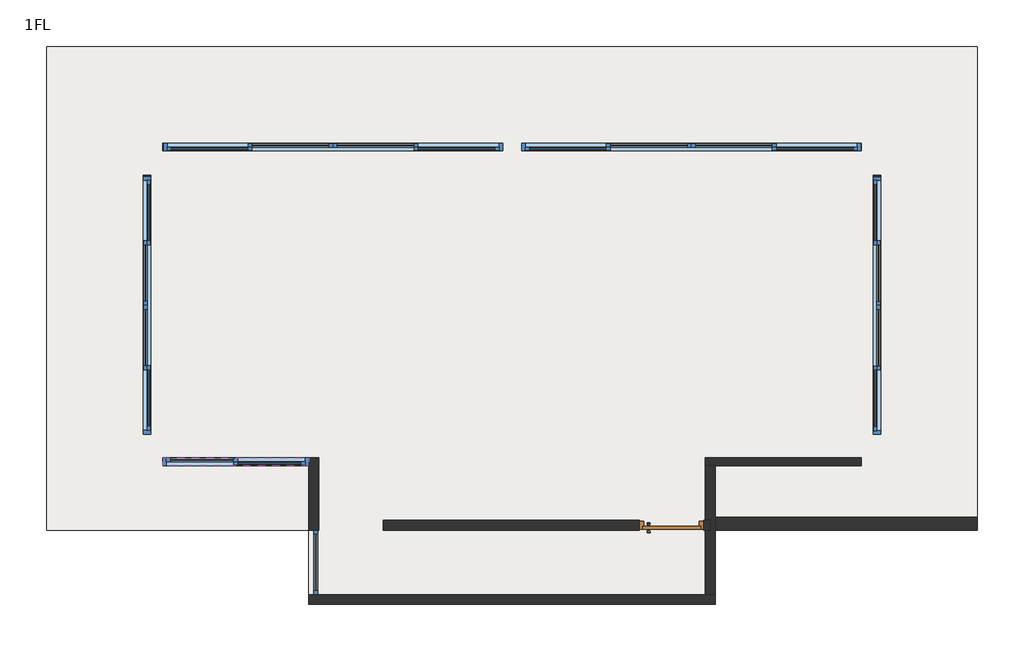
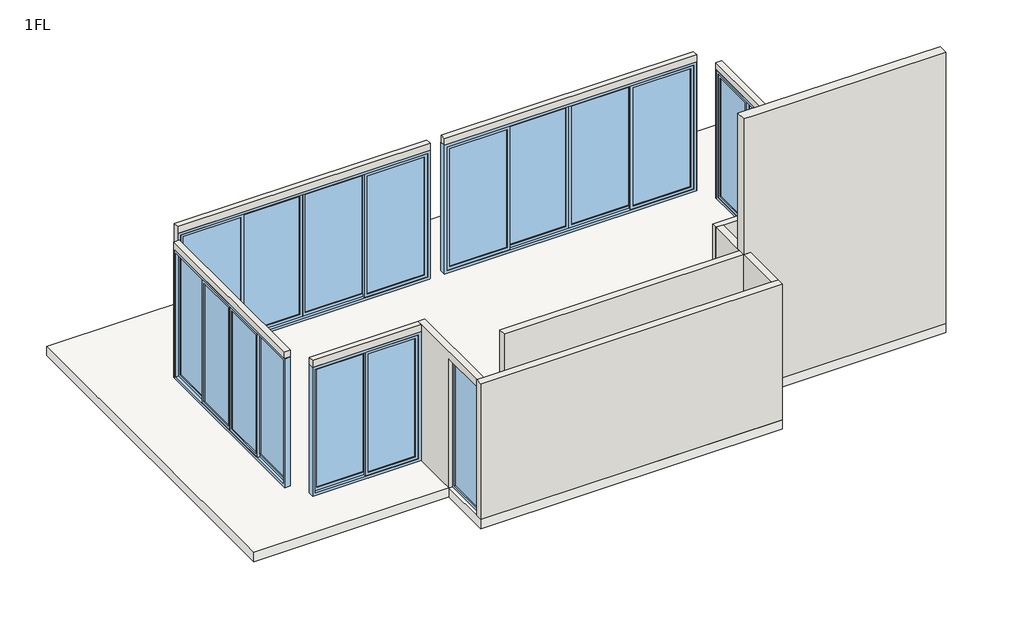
# One storey, incomplete: 11 walls, 6 windows, 1 door, 1 slab.
"""IFC4 building model written with IfcOpenShell, lengths in millimetres."""

from ifc_helpers import new_model, si_unit, frame, origin, place, context, project, spatial, polyline, outline, extrude, faceted_brep, transform, mapped, element, save
from components import door_100_x_210_cm_7fcb26db, window_85ef9ea3, window_18301d79, window_0d7f8c46, window_d6e7e360, window_17b7d049

model = new_model("IFC4")

# Units and contexts
model_context = context("Model", 3, world=origin())
ifc_project = project(units=[si_unit("LENGTHUNIT", "METRE", prefix="MILLI")], contexts=[model_context])

# Site, building, storey
site = spatial("IfcSite", under=ifc_project)
building = spatial("IfcBuilding", under=site)
storey = spatial("IfcBuildingStorey", under=building, Name="1FL", Elevation=850.0)

# Door
placement = place(None, origin())
door_100_x_210_cm_shape = door_100_x_210_cm_7fcb26db(model_context)
element("IfcDoor", 1, ObjectType="單開-矩形- (1) : 100 x 210 cm", at=placement, inside=storey, context=model_context, shape_type="MappedRepresentation", body=[
    mapped(door_100_x_210_cm_shape, transform((-162.6682319, -7197.8625998, 850.0), x_axis=(-1.0, 0.0, 0.0), y_axis=(0.0, -1.0, 0.0), z_axis=(0.0, 0.0, 1.0))),
])

# Slab
element("IfcSlab", 2, ObjectType="1FL_一般_20cm", at=placement, inside=storey, context=model_context, shape_type="SweptSolid", body=[
    extrude(outline(polyline([(4582.3317681, 437.1374002), (4582.3317681, -7062.8625998), (512.3317681, -7062.8625998), (512.3317681, -8212.8625998), (-5787.6682319, -8212.8625998), (-5787.6682319, -7062.8625998), (-9857.6682319, -7062.8625998), (-9857.6682319, 437.1374002), (4582.3317681, 437.1374002)])), frame((0.0, 0.0, 650.0), z_axis=(0.0, 0.0, 1.0), x_axis=(1.0, 0.0, 0.0)), (0.0, 0.0, 1.0), 200.0),
])

# Walls
element("IfcWall", 3, ObjectType="1FL_樓梯_北面_RC 牆_15cm", at=placement, inside=storey, context=model_context, shape_type="Brep", body=[
    faceted_brep([(512.3317681, -8062.8625998, 850.0), (362.3317681, -8062.8625998, 850.0), (-5787.6682319, -8062.8625998, 850.0), (-5787.6682319, -8062.8625998, 3700.0), (-5787.6682319, -8062.8625998, 3850.0), (-5637.6682319, -8062.8625998, 3850.0), (362.3317681, -8062.8625998, 3850.0), (512.3317681, -8062.8625998, 3850.0), (512.3317681, -8212.8625998, 850.0), (512.3317681, -8212.8625998, 3850.0), (-5787.6682319, -8212.8625998, 3850.0), (-5787.6682319, -8212.8625998, 850.0)], [[[0, 1, 2, 3, 4, 5, 6, 7]], [[8, 9, 10, 11]], [[2, 1, 0, 8, 11]], [[7, 6, 5, 4, 10, 9]], [[4, 3, 2, 11, 10]], [[0, 7, 9, 8]]]),
])
element("IfcWall", 4, ObjectType="1FL_樓梯_東面_RC 牆_15cm", at=placement, inside=storey, context=model_context, shape_type="Brep", body=[
    faceted_brep([(-5637.6682319, -5937.8625998, 850.0), (-5637.6682319, -5937.8625998, 3850.0), (-5637.6682319, -8062.8625998, 3850.0), (-5637.6682319, -8062.8625998, 3700.0), (-5637.6682319, -7062.8625998, 3700.0), (-5637.6682319, -7062.8625998, 850.0), (-5787.6682319, -8062.8625998, 3850.0), (-5787.6682319, -6062.8625998, 3850.0), (-5787.6682319, -5942.8625998, 3850.0), (-5787.6682319, -5937.8625998, 3850.0), (-5787.6682319, -5937.8625998, 850.0), (-5787.6682319, -7062.8625998, 850.0), (-5787.6682319, -7062.8625998, 3700.0), (-5787.6682319, -8062.8625998, 3700.0)], [[[0, 1, 2, 3, 4, 5]], [[6, 7, 8, 9, 10, 11, 12, 13]], [[10, 0, 5, 11]], [[1, 0, 10, 9]], [[2, 1, 9, 8, 7, 6]], [[2, 6, 13, 3]], [[12, 4, 3, 13]], [[4, 12, 11, 5]]]),
])
element("IfcWall", 5, ObjectType="1FL_樓梯_西面_RC 牆_15cm", at=placement, inside=storey, context=model_context, shape_type="SweptSolid", body=[
    extrude(outline(polyline([(362.3317681, -8062.8625998), (362.3317681, -6062.8625998), (512.3317681, -6062.8625998), (512.3317681, -8062.8625998), (362.3317681, -8062.8625998)])), frame((0.0, 0.0, 850.0), z_axis=(0.0, 0.0, 1.0), x_axis=(1.0, 0.0, 0.0)), (0.0, 0.0, 1.0), 3000.0),
])
element("IfcWall", 6, ObjectType="1FL_樓梯_南面_RC 牆_15cm", at=placement, inside=storey, context=model_context, shape_type="Brep", body=[
    faceted_brep([(437.3317681, -7062.8625998, 850.0), (437.3317681, -7062.8625998, 3850.0), (362.3317681, -7062.8625998, 3850.0), (-4637.6682319, -7062.8625998, 3850.0), (-4637.6682319, -7062.8625998, 850.0), (-662.6682319, -7062.8625998, 850.0), (-662.6682319, -7062.8625998, 2950.0), (337.3317681, -7062.8625998, 2950.0), (337.3317681, -7062.8625998, 850.0), (437.3317681, -6912.8625998, 3850.0), (437.3317681, -6912.8625998, 850.0), (337.3317681, -6912.8625998, 850.0), (337.3317681, -6912.8625998, 2950.0), (-662.6682319, -6912.8625998, 2950.0), (-662.6682319, -6912.8625998, 850.0), (-4637.6682319, -6912.8625998, 850.0), (-4637.6682319, -6912.8625998, 3850.0)], [[[0, 1, 2, 3, 4, 5, 6, 7, 8]], [[9, 10, 11, 12, 13, 14, 15, 16]], [[10, 0, 8, 11]], [[4, 15, 14, 5]], [[1, 0, 10, 9]], [[3, 2, 1, 9, 16]], [[4, 3, 16, 15]], [[13, 6, 5, 14]], [[6, 13, 12, 7]], [[7, 12, 11, 8]]]),
])
element("IfcWall", 7, ObjectType="整樓_牆面_北面_虎邊_RC 牆_20cm", at=placement, inside=storey, context=model_context, shape_type="Brep", body=[
    faceted_brep([(4582.3317681, -6862.8625998, 850.0), (437.3317681, -6862.8625998, 850.0), (437.3317681, -6862.8625998, 3850.0), (362.3317681, -6862.8625998, 3850.0), (362.3317681, -6862.8625998, 6850.0), (2962.3317681, -6862.8625998, 6850.0), (3082.3317681, -6862.8625998, 6850.0), (4582.3317681, -6862.8625998, 6850.0), (3082.3317681, -6862.8625998, 3850.0), (3082.3317681, -6862.8625998, 6700.0), (2962.3317681, -6862.8625998, 6700.0), (2962.3317681, -6862.8625998, 3850.0), (437.3317681, -7062.8625998, 850.0), (4582.3317681, -7062.8625998, 850.0), (4582.3317681, -7062.8625998, 6850.0), (512.3317681, -7062.8625998, 6850.0), (362.3317681, -7062.8625998, 6850.0), (362.3317681, -7062.8625998, 3850.0), (437.3317681, -7062.8625998, 3850.0), (437.3317681, -6912.8625998, 850.0), (437.3317681, -6912.8625998, 3850.0), (3082.3317681, -6912.8625998, 3850.0), (3082.3317681, -6912.8625998, 6700.0), (2962.3317681, -6912.8625998, 6700.0), (2962.3317681, -6912.8625998, 3850.0)], [[[0, 1, 2, 3, 4, 5, 6, 7], [8, 9, 10, 11]], [[12, 13, 14, 15, 16, 17, 18]], [[1, 0, 13, 12, 19]], [[7, 6, 5, 4, 16, 15, 14]], [[0, 7, 14, 13]], [[1, 19, 12, 18, 20, 2]], [[3, 2, 20, 18, 17]], [[4, 3, 17, 16]], [[21, 22, 9, 8]], [[23, 24, 11, 10]], [[22, 23, 10, 9]], [[22, 21, 24, 23]], [[24, 21, 8, 11]]]),
])
element("IfcWall", 8, ObjectType="落地窗輔助牆_12cm", at=placement, inside=storey, context=model_context, shape_type="SweptSolid", body=[
    extrude(outline(polyline([(-5787.6682319, -6062.8625998), (-8057.6682319, -6062.8625998), (-8057.6682319, -5942.8625998), (-5787.6682319, -5942.8625998), (-5787.6682319, -6062.8625998)])), frame((0.0, 0.0, 3700.0), z_axis=(0.0, 0.0, 1.0), x_axis=(1.0, 0.0, 0.0)), (0.0, 0.0, 1.0), 150.0),
])
element("IfcWall", 9, ObjectType="落地窗輔助牆_12cm", at=placement, inside=storey, context=model_context, shape_type="SweptSolid", body=[
    extrude(outline(polyline([(-5562.8625998, 3850.0), (-1562.8625998, 3850.0), (-1562.8625998, 850.0), (-1575.3475057, 850.0), (-1575.3475057, 3700.0), (-5562.8625998, 3700.0), (-5562.8625998, 3850.0)])), frame((-8357.6682319, 0.0, 0.0), z_axis=(1.0, 0.0, 0.0), x_axis=(0.0, 1.0, 0.0)), (0.0, 0.0, 1.0), 120.0),
])
element("IfcWall", 10, ObjectType="落地窗輔助牆_12cm", at=placement, inside=storey, context=model_context, shape_type="SweptSolid", body=[
    extrude(outline(polyline([(3850.0, -2787.6682319), (3850.0, -8057.6682319), (850.0, -8057.6682319), (850.0, -8049.026964), (3700.0, -8049.026964), (3700.0, -2787.6682319), (3850.0, -2787.6682319)])), frame((0.0, -1182.8625998, 0.0), z_axis=(0.0, 1.0, 0.0), x_axis=(0.0, 0.0, 1.0)), (0.0, 0.0, 1.0), 120.0),
])
element("IfcWall", 11, ObjectType="落地窗輔助牆_12cm", at=placement, inside=storey, context=model_context, shape_type="SweptSolid", body=[
    extrude(outline(polyline([(850.0, 2782.3317681), (3850.0, 2782.3317681), (3850.0, -2487.6682319), (3700.0, -2487.6682319), (3700.0, 2780.0615654), (850.0, 2780.0615654), (850.0, 2782.3317681)])), frame((0.0, -1182.8625998, 0.0), z_axis=(0.0, 1.0, 0.0), x_axis=(0.0, 0.0, 1.0)), (0.0, 0.0, 1.0), 120.0),
])
element("IfcWall", 12, ObjectType="落地窗輔助牆_12cm", at=placement, inside=storey, context=model_context, shape_type="SweptSolid", body=[
    extrude(outline(polyline([(-5562.8625998, 3850.0), (-1562.8625998, 3850.0), (-1562.8625998, 850.0), (-1578.9083696, 850.0), (-1578.9083696, 3700.0), (-5562.8625998, 3700.0), (-5562.8625998, 3850.0)])), frame((2962.3317681, 0.0, 0.0), z_axis=(1.0, 0.0, 0.0), x_axis=(0.0, 1.0, 0.0)), (0.0, 0.0, 1.0), 120.0),
])
element("IfcWall", 13, ObjectType="落地窗輔助牆_12cm", at=placement, inside=storey, context=model_context, shape_type="Brep", body=[
    faceted_brep([(2782.3317681, -5942.8625998, 850.0), (362.3317681, -5942.8625998, 850.0), (362.3317681, -5942.8625998, 3850.0), (2782.3317681, -5942.8625998, 3850.0), (2782.3317681, -6062.8625998, 850.0), (2782.3317681, -6062.8625998, 3850.0), (512.3317681, -6062.8625998, 3850.0), (362.3317681, -6062.8625998, 3850.0), (362.3317681, -6062.8625998, 850.0), (512.3317681, -6062.8625998, 850.0)], [[[0, 1, 2, 3]], [[4, 5, 6, 7, 8, 9]], [[1, 0, 4, 9, 8]], [[3, 2, 7, 6, 5]], [[0, 3, 5, 4]], [[2, 1, 8, 7]]]),
])

# Windows
window_shape = window_85ef9ea3(model_context)
element("IfcWindow", 14, ObjectType="固定窗-矩形- (1) : 樓梯_東面_固定窗_矩型_100 x 285cm", at=placement, inside=storey, context=model_context, shape_type="MappedRepresentation", body=[
    mapped(window_shape, transform((-5712.6682319, -7562.8625998, 850.0), x_axis=(0.0, 1.0, 0.0), y_axis=(-1.0, 0.0, 0.0), z_axis=(0.0, 0.0, 1.0))),
])
window_2_shape = window_18301d79(model_context)
element("IfcWindow", 15, ObjectType="四開落地窗- (1) : 1FL_東面_四開落地窗_400 x 285cm", at=placement, inside=storey, context=model_context, shape_type="MappedRepresentation", body=[
    mapped(window_2_shape, transform((-8477.6682319, -3575.3475057, 850.0), x_axis=(0.0, 1.0, 0.0), y_axis=(-1.0, 0.0, 0.0), z_axis=(0.0, 0.0, 1.0))),
])
window_3_shape = window_0d7f8c46(model_context)
element("IfcWindow", 16, ObjectType="四開落地窗- (1) : 1FL_南面_四開落地窗_527 x 285cm", at=placement, inside=storey, context=model_context, shape_type="MappedRepresentation", body=[
    mapped(window_3_shape, transform((-5414.026964, -942.8625998, 850.0), x_axis=(-1.0, 0.0, 0.0), y_axis=(0.0, -1.0, 0.0), z_axis=(0.0, 0.0, 1.0))),
])
element("IfcWindow", 17, ObjectType="四開落地窗- (1) : 1FL_南面_四開落地窗_527 x 285cm", at=placement, inside=storey, context=model_context, shape_type="MappedRepresentation", body=[
    mapped(window_3_shape, transform((145.0615654, -942.8625998, 850.0), x_axis=(-1.0, 0.0, 0.0), y_axis=(0.0, -1.0, 0.0), z_axis=(0.0, 0.0, 1.0))),
])
window_4_shape = window_d6e7e360(model_context)
element("IfcWindow", 18, ObjectType="四開落地窗- (1) : 1FL_西面_四開落地窗_400 x 285cm", at=placement, inside=storey, context=model_context, shape_type="MappedRepresentation", body=[
    mapped(window_4_shape, transform((3202.3317681, -3578.9083696, 850.0), x_axis=(0.0, 1.0, 0.0), y_axis=(-1.0, 0.0, 0.0), z_axis=(0.0, 0.0, 1.0))),
])
window_5_shape = window_17b7d049(model_context)
element("IfcWindow", 19, ObjectType="雙開落地窗- (1) : 1FL_北面_左側_雙開落地窗_227 x 285cm", at=placement, inside=storey, context=model_context, shape_type="MappedRepresentation", body=[
    mapped(window_5_shape, transform((-6922.6682319, -6182.8625998, 850.0), x_axis=(-1.0, 0.0, 0.0), y_axis=(0.0, -1.0, 0.0), z_axis=(0.0, 0.0, 1.0))),
])

save(model, "model.ifc")
